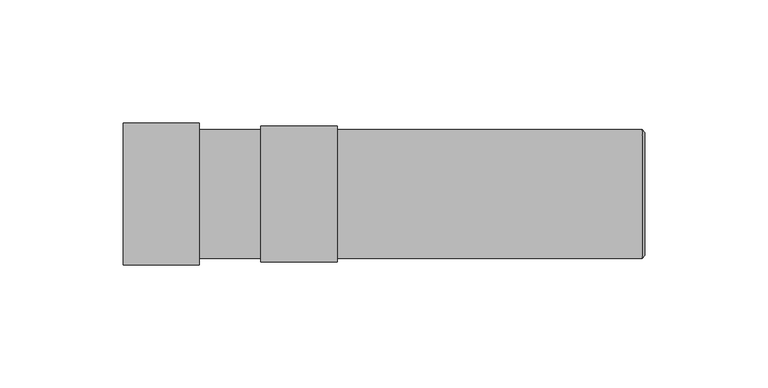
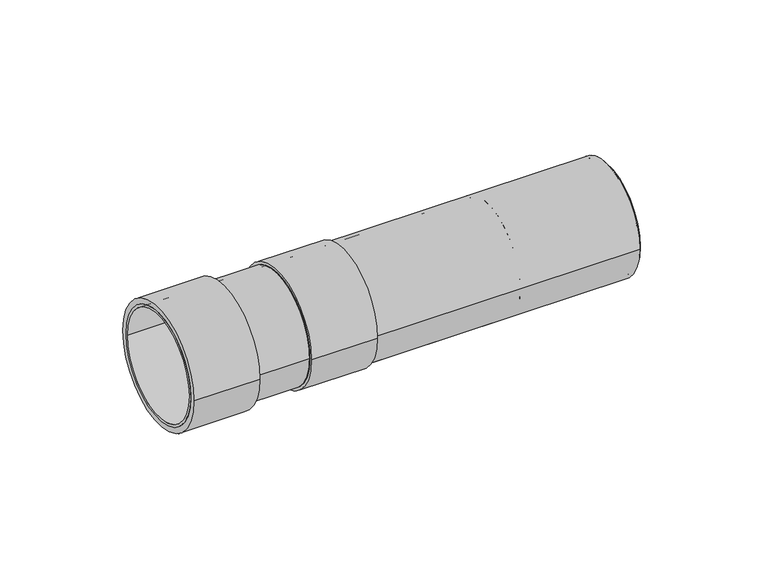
"""IFC4 building model written with IfcOpenShell, lengths in millimetres: pipe fitting geometry, Superdrain HTL-Long socket : Superdrain HTL-Long socket."""

from ifc_helpers import new_model, si_unit, point, frame, origin, origin_2d, place, context, project, spatial, polyline, circle_curve, trimmed, segment, composite_curve, outline, extrude, source, transform, mapped, element, save
from ifc_brep_helpers import plane_surface, revolved_surface, advanced_brep


def pipe_fitting_26a0cade(model_context):
    return source(origin(), model_context, "Body", "SolidModel", [
        extrude(outline(composite_curve([segment(trimmed(circle_curve(origin_2d(), 26.25), [point((-26.25, 0.0))], [point((26.25, 0.0))], False, "CARTESIAN"), True, "CONTINUOUS"), segment(trimmed(circle_curve(origin_2d(), 26.25), [point((26.25, 0.0))], [point((-26.25, 0.0))], False, "CARTESIAN"), True, "CONTINUOUS")], self_intersect=False), holes=[composite_curve([segment(trimmed(circle_curve(origin_2d(), 25.0), [point((-25.0, 0.0))], [point((25.0, 0.0))], True, "CARTESIAN"), True, "CONTINUOUS"), segment(trimmed(circle_curve(origin_2d(), 25.0), [point((25.0, 0.0))], [point((-25.0, 0.0))], True, "CARTESIAN"), True, "CONTINUOUS")], self_intersect=False)]), frame((-106.0, 0.0, 0.0), z_axis=(1.0, 0.0, 0.0), x_axis=(0.0, 1.0, 0.0)), (0.0, 0.0, 1.0), 155.0),
        extrude(outline(composite_curve([segment(trimmed(circle_curve(origin_2d(), 27.5625), [point((-27.5625, 0.0))], [point((27.5625, 0.0))], False, "CARTESIAN"), True, "CONTINUOUS"), segment(trimmed(circle_curve(origin_2d(), 27.5625), [point((27.5625, 0.0))], [point((-27.5625, 0.0))], False, "CARTESIAN"), True, "CONTINUOUS")], self_intersect=False), holes=[composite_curve([segment(trimmed(circle_curve(origin_2d(), 25.0), [point((-25.0, 0.0))], [point((25.0, 0.0))], True, "CARTESIAN"), True, "CONTINUOUS"), segment(trimmed(circle_curve(origin_2d(), 25.0), [point((25.0, 0.0))], [point((-25.0, 0.0))], True, "CARTESIAN"), True, "CONTINUOUS")], self_intersect=False)]), frame((-106.0, 0.0, 0.0), z_axis=(1.0, 0.0, 0.0), x_axis=(0.0, 1.0, 0.0)), (0.0, 0.0, 1.0), 31.0),
        advanced_brep(
        [(50.0, -25.0, 0.0), (50.0, 25.0, 0.0), (49.0, -26.25, 0.0), (49.0, 26.25, 0.0)],
        [
            (0, 1, circle_curve(frame((50.0, 0.0, 0.0), z_axis=(1.0, 0.0, 0.0), x_axis=(0.0, -1.0, 0.0)), 25.0)),
            (1, 0, circle_curve(frame((50.0, 0.0, 0.0), z_axis=(1.0, 0.0, 0.0), x_axis=(0.0, 1.0, 0.0)), 25.0)),
            (2, 3, circle_curve(frame((49.0, 0.0, 0.0), z_axis=(-1.0, 0.0, 0.0), x_axis=(0.0, 1.0, 0.0)), 26.25)),
            (3, 2, circle_curve(frame((49.0, 0.0, 0.0), z_axis=(-1.0, 0.0, 0.0), x_axis=(0.0, -1.0, 0.0)), 26.25)),
            (3, 1),
            (0, 2),
        ],
        [
            plane_surface(frame((50.0, 0.0, 0.0), z_axis=(1.0, 0.0, 0.0), x_axis=(0.0, 0.0, -1.0))),
            plane_surface(frame((49.0, 0.0, 0.0), z_axis=(-1.0, 0.0, 0.0), x_axis=(0.0, 0.0, -1.0))),
            revolved_surface(polyline([(50.0, -25.0, 0.0), (49.0, -26.25, 0.0)]), (70.0, 0.0, 0.0), (-1.0, 0.0, 0.0)),
            revolved_surface(polyline([(50.0, 25.0, 0.0), (49.0, 26.25, 0.0)]), (70.0, 0.0, 0.0), (-1.0, 0.0, 0.0)),
        ],
        [
            (0, [[1, 2]]),
            (1, [[3, 4]]),
            (2, [[-4, 5, -1, 6]]),
            (3, [[-3, -6, -2, -5]]),
        ],
    ),
        extrude(outline(composite_curve([segment(trimmed(circle_curve(origin_2d(), 26.25), [point((-26.25, 0.0))], [point((26.25, 0.0))], False, "CARTESIAN"), True, "CONTINUOUS"), segment(trimmed(circle_curve(origin_2d(), 26.25), [point((26.25, 0.0))], [point((-26.25, 0.0))], False, "CARTESIAN"), True, "CONTINUOUS")], self_intersect=False), holes=[composite_curve([segment(trimmed(circle_curve(origin_2d(), 25.0), [point((-25.0, 0.0))], [point((25.0, 0.0))], True, "CARTESIAN"), True, "CONTINUOUS"), segment(trimmed(circle_curve(origin_2d(), 25.0), [point((25.0, 0.0))], [point((-25.0, 0.0))], True, "CARTESIAN"), True, "CONTINUOUS")], self_intersect=False)]), frame((-162.0, 0.0, 0.0), z_axis=(1.0, 0.0, 0.0), x_axis=(0.0, 1.0, 0.0)), (0.0, 0.0, 1.0), 155.0),
        extrude(outline(composite_curve([segment(trimmed(circle_curve(origin_2d(), 28.875), [point((-28.875, 0.0))], [point((28.875, 0.0))], False, "CARTESIAN"), True, "CONTINUOUS"), segment(trimmed(circle_curve(origin_2d(), 28.875), [point((28.875, 0.0))], [point((-28.875, 0.0))], False, "CARTESIAN"), True, "CONTINUOUS")], self_intersect=False), holes=[composite_curve([segment(trimmed(circle_curve(origin_2d(), 25.0), [point((-25.0, 0.0))], [point((25.0, 0.0))], True, "CARTESIAN"), True, "CONTINUOUS"), segment(trimmed(circle_curve(origin_2d(), 25.0), [point((25.0, 0.0))], [point((-25.0, 0.0))], True, "CARTESIAN"), True, "CONTINUOUS")], self_intersect=False)]), frame((-162.0, 0.0, 0.0), z_axis=(1.0, 0.0, 0.0), x_axis=(0.0, 1.0, 0.0)), (0.0, 0.0, 1.0), 31.0),
        advanced_brep(
        [(-6.0, -25.0, 0.0), (-6.0, 25.0, 0.0), (-7.0, -26.25, 0.0), (-7.0, 26.25, 0.0)],
        [
            (0, 1, circle_curve(frame((-6.0, 0.0, 0.0), z_axis=(1.0, 0.0, 0.0), x_axis=(0.0, -1.0, 0.0)), 25.0)),
            (1, 0, circle_curve(frame((-6.0, 0.0, 0.0), z_axis=(1.0, 0.0, 0.0), x_axis=(0.0, 1.0, 0.0)), 25.0)),
            (2, 3, circle_curve(frame((-7.0, 0.0, 0.0), z_axis=(-1.0, 0.0, 0.0), x_axis=(0.0, 1.0, 0.0)), 26.25)),
            (3, 2, circle_curve(frame((-7.0, 0.0, 0.0), z_axis=(-1.0, 0.0, 0.0), x_axis=(0.0, -1.0, 0.0)), 26.25)),
            (3, 1),
            (0, 2),
        ],
        [
            plane_surface(frame((-6.0, 0.0, 0.0), z_axis=(1.0, 0.0, 0.0), x_axis=(0.0, 0.0, -1.0))),
            plane_surface(frame((-7.0, 0.0, 0.0), z_axis=(-1.0, 0.0, 0.0), x_axis=(0.0, 0.0, -1.0))),
            revolved_surface(polyline([(-6.0, -25.0, 0.0), (-7.0, -26.25, 0.0)]), (14.0, 0.0, 0.0), (-1.0, 0.0, 0.0)),
            revolved_surface(polyline([(-6.0, 25.0, 0.0), (-7.0, 26.25, 0.0)]), (14.0, 0.0, 0.0), (-1.0, 0.0, 0.0)),
        ],
        [
            (0, [[1, 2]]),
            (1, [[3, 4]]),
            (2, [[-4, 5, -1, 6]]),
            (3, [[-3, -6, -2, -5]]),
        ],
    ),
        extrude(outline(composite_curve([segment(trimmed(circle_curve(origin_2d(), 25.0), [point((-25.0, 0.0))], [point((25.0, 0.0))], False, "CARTESIAN"), True, "CONTINUOUS"), segment(trimmed(circle_curve(origin_2d(), 25.0), [point((25.0, 0.0))], [point((-25.0, 0.0))], False, "CARTESIAN"), True, "CONTINUOUS")], self_intersect=False)), frame((-7.0, 0.0, 0.0), z_axis=(1.0, 0.0, 0.0), x_axis=(0.0, 1.0, 0.0)), (0.0, 0.0, 1.0), 56.0),
    ])


if __name__ == "__main__":
    model = new_model("IFC4")
    model_context = context("Model", 3, world=origin())
    ifc_project = project(units=[si_unit("LENGTHUNIT", "METRE", prefix="MILLI")], contexts=[model_context])
    site = spatial("IfcSite", under=ifc_project)
    building = spatial("IfcBuilding", under=site)
    placement = place(None, origin())
    pipe_fitting_shape = pipe_fitting_26a0cade(model_context)
    element("IfcPipeFitting", 1, ObjectType="Superdrain HTL-Long socket : Superdrain HTL-Long socket", at=placement, inside=building, context=model_context, shape_type="MappedRepresentation", body=[
        mapped(pipe_fitting_shape, transform((0.0, 0.0, 0.0), x_axis=(1.0, 0.0, 0.0), y_axis=(0.0, 1.0, 0.0), z_axis=(0.0, 0.0, 1.0))),
    ])
    save(model, "model.ifc")
